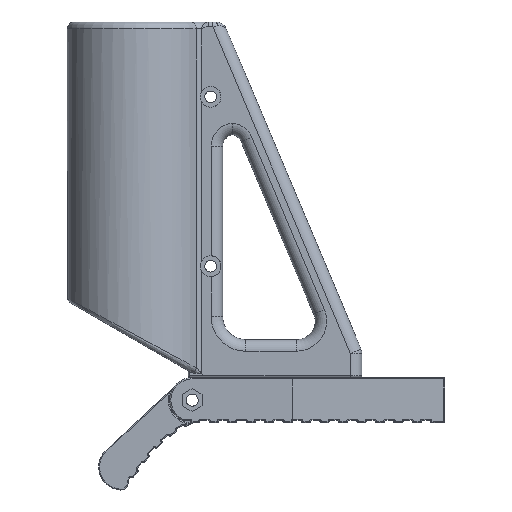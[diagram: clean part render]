
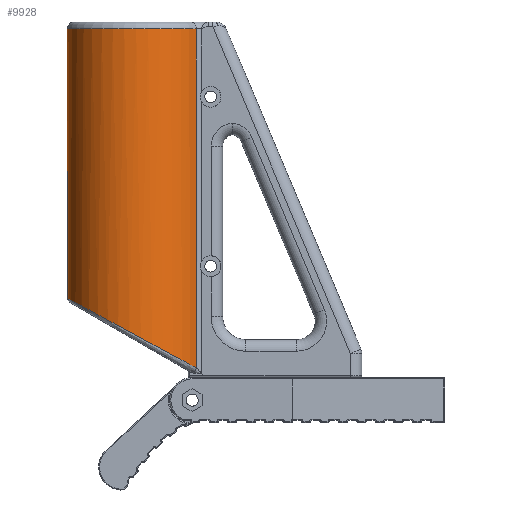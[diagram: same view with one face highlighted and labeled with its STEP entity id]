
A CAD part, left-side view. The second image highlights one B-rep face of the part: STEP entity #9928.
In plain terms, the highlighted cylindrical face has radius 30 mm (diameter 60 mm), a partial arc.
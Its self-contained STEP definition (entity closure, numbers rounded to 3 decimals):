
#487=ELLIPSE('',#12191,34.078,30.);
#1004=LINE('',#19219,#1602);
#1005=LINE('',#19224,#1603);
#1602=VECTOR('',#15149,1000.);
#1603=VECTOR('',#15152,1000.);
#4178=ORIENTED_EDGE('',*,*,#6006,.T.);
#4179=ORIENTED_EDGE('',*,*,#6007,.T.);
#4180=ORIENTED_EDGE('',*,*,#6008,.T.);
#4181=ORIENTED_EDGE('',*,*,#6009,.T.);
#6006=EDGE_CURVE('',#6986,#6987,#1004,.T.);
#6007=EDGE_CURVE('',#6987,#6988,#487,.F.);
#6008=EDGE_CURVE('',#6988,#6989,#1005,.F.);
#6009=EDGE_CURVE('',#6989,#6986,#7663,.T.);
#6986=VERTEX_POINT('',#19220);
#6987=VERTEX_POINT('',#19221);
#6988=VERTEX_POINT('',#19223);
#6989=VERTEX_POINT('',#19225);
#7663=CIRCLE('',#12192,30.);
#8299=EDGE_LOOP('',(#4178,#4179,#4180,#4181));
#8980=FACE_BOUND('',#8299,.T.);
#9352=CYLINDRICAL_SURFACE('',#12190,30.);
#9928=ADVANCED_FACE('',(#8980),#9352,.T.);
#12190=AXIS2_PLACEMENT_3D('',#19218,#15147,#15148);
#12191=AXIS2_PLACEMENT_3D('',#19222,#15150,#15151);
#12192=AXIS2_PLACEMENT_3D('',#19226,#15153,#15154);
#15147=DIRECTION('',(0.,0.,-1.));
#15148=DIRECTION('',(-1.,0.,0.));
#15149=DIRECTION('',(0.,0.,-1.));
#15150=DIRECTION('',(0.,0.474,-0.88));
#15151=DIRECTION('',(0.,-0.88,-0.474));
#15152=DIRECTION('',(0.,0.,-1.));
#15153=DIRECTION('',(0.,0.,-1.));
#15154=DIRECTION('',(-1.,0.,0.));
#19218=CARTESIAN_POINT('',(0.,0.,45.));
#19219=CARTESIAN_POINT('',(15.231,-25.846,211.885));
#19220=CARTESIAN_POINT('',(15.231,-25.846,208.885));
#19221=CARTESIAN_POINT('',(15.231,-25.846,62.052));
#19222=CARTESIAN_POINT('',(0.,0.,75.979));
#19223=CARTESIAN_POINT('',(-15.231,-25.846,62.052));
#19224=CARTESIAN_POINT('',(-15.231,-25.846,87.994));
#19225=CARTESIAN_POINT('',(-15.231,-25.846,208.885));
#19226=CARTESIAN_POINT('',(0.,0.,208.885));
